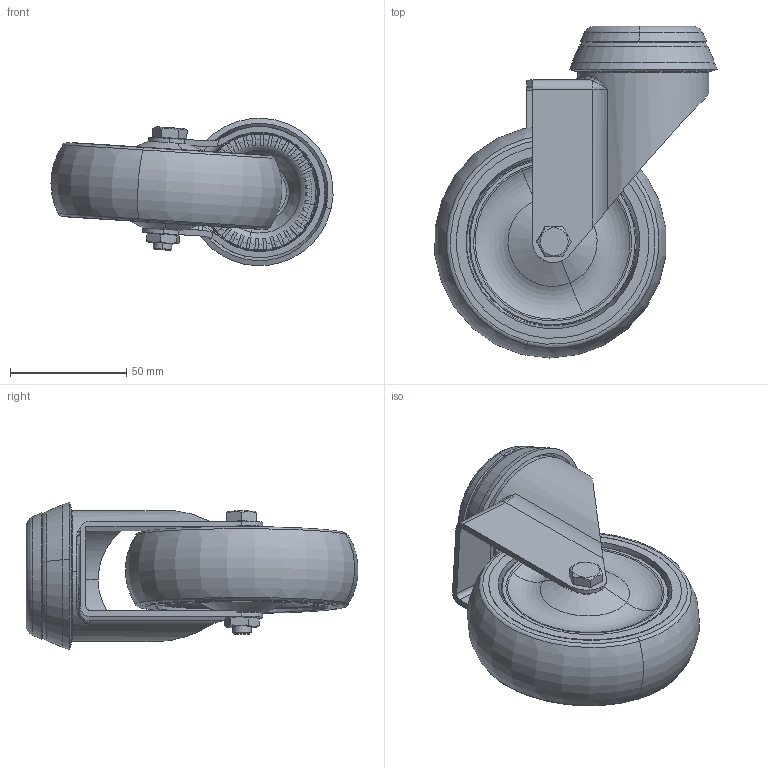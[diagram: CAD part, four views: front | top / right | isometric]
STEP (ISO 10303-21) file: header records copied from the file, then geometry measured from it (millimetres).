
FILE_DESCRIPTION (( 'STEP AP203' ), '1' );
FILE_NAME ('300341_STEP.STEP', '2012-02-27T11:56:11', ( '' ), ( '' ), 'SwSTEP 2.0', 'SolidWorks 2011', '' );
FILE_SCHEMA (( 'CONFIG_CONTROL_DESIGN' ));
Length unit declared in the file: millimetre
Products named in the file (1): 300341_STEP
Bounding box: 121.19 x 142.59 x 63.32 mm (x, y, z)
Surface area: 86756.7 mm2 (no closed solid volume)
Topology: 0 solids, 14 shells, 259 faces, 862 edges, 582 vertices
Faces by surface type: plane 134, cone 48, torus 37, cylinder 32, bspline 8
Entity records: 11123 total; most frequent: CARTESIAN_POINT 3747, DIRECTION 1544, ORIENTED_EDGE 1435, EDGE_CURVE 859, AXIS2_PLACEMENT_3D 607, VERTEX_POINT 582, CIRCLE 355, LINE 330
